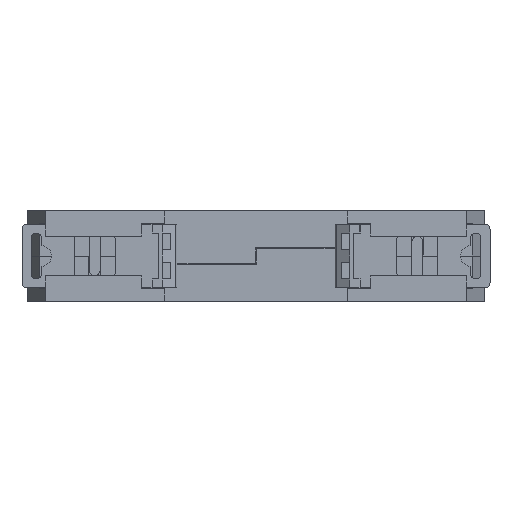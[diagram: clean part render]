
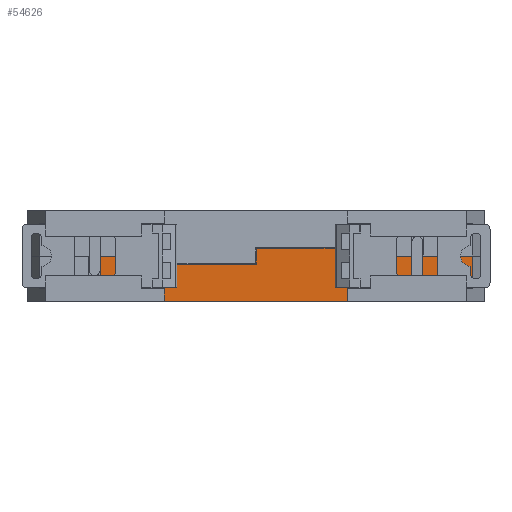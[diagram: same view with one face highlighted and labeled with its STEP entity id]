
A CAD part, front view. The second image highlights one B-rep face of the part: STEP entity #54626.
In plain terms, the highlighted planar face has unit normal (0, -1, 0).
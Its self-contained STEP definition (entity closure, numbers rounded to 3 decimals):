
#153 = CARTESIAN_POINT ( 'NONE',  ( 0.05, 0., 10.4 ) ) ;
#404 = EDGE_LOOP ( 'NONE', ( #39533, #10473, #4289, #28797, #7849, #20193, #27583, #27879, #53048, #15402, #41376, #2818, #42409, #16043 ) ) ;
#1025 = VERTEX_POINT ( 'NONE', #53920 ) ;
#1047 = DIRECTION ( 'NONE',  ( -1., 0., 0. ) ) ;
#1276 = VERTEX_POINT ( 'NONE', #153 ) ;
#1555 = CARTESIAN_POINT ( 'NONE',  ( 42.4, 0., 8.9 ) ) ;
#1650 = EDGE_CURVE ( 'NONE', #25770, #32110, #54194, .T. ) ;
#1839 = EDGE_CURVE ( 'NONE', #5788, #46252, #36003, .T. ) ;
#2256 = CARTESIAN_POINT ( 'NONE',  ( -30.5, 0., 8.9 ) ) ;
#2818 = ORIENTED_EDGE ( 'NONE', *, *, #27532, .T. ) ;
#3936 = LINE ( 'NONE', #18486, #21828 ) ;
#3993 = AXIS2_PLACEMENT_3D ( 'NONE', #5317, #35244, #1047 ) ;
#4101 = VECTOR ( 'NONE', #18441, 1000. ) ;
#4255 = DIRECTION ( 'NONE',  ( 0., 0., -1. ) ) ;
#4289 = ORIENTED_EDGE ( 'NONE', *, *, #31719, .T. ) ;
#5317 = CARTESIAN_POINT ( 'NONE',  ( 42.4, 0., 8.9 ) ) ;
#5788 = VERTEX_POINT ( 'NONE', #26750 ) ;
#7849 = ORIENTED_EDGE ( 'NONE', *, *, #10587, .T. ) ;
#8528 = CARTESIAN_POINT ( 'NONE',  ( 0.05, 0., 10.4 ) ) ;
#9726 = CARTESIAN_POINT ( 'NONE',  ( -18., 0., 0. ) ) ;
#9890 = EDGE_CURVE ( 'NONE', #28914, #35040, #37804, .T. ) ;
#10042 = VECTOR ( 'NONE', #41183, 1000. ) ;
#10197 = LINE ( 'NONE', #8528, #28616 ) ;
#10285 = DIRECTION ( 'NONE',  ( 0., 0., -1. ) ) ;
#10473 = ORIENTED_EDGE ( 'NONE', *, *, #42954, .F. ) ;
#10587 = EDGE_CURVE ( 'NONE', #42765, #50553, #47933, .T. ) ;
#12171 = CARTESIAN_POINT ( 'NONE',  ( -18., 0., 2.5 ) ) ;
#12572 = EDGE_CURVE ( 'NONE', #1276, #5788, #27353, .T. ) ;
#15402 = ORIENTED_EDGE ( 'NONE', *, *, #1839, .F. ) ;
#16043 = ORIENTED_EDGE ( 'NONE', *, *, #21227, .T. ) ;
#16507 = FACE_OUTER_BOUND ( 'NONE', #404, .T. ) ;
#17479 = VECTOR ( 'NONE', #21603, 1000. ) ;
#18441 = DIRECTION ( 'NONE',  ( 1., 0., 0. ) ) ;
#18486 = CARTESIAN_POINT ( 'NONE',  ( 18., 0., 2.5 ) ) ;
#19022 = DIRECTION ( 'NONE',  ( 0., 0., 1. ) ) ;
#19101 = VECTOR ( 'NONE', #48368, 1000. ) ;
#20193 = ORIENTED_EDGE ( 'NONE', *, *, #36826, .F. ) ;
#20598 = LINE ( 'NONE', #43704, #4101 ) ;
#21227 = EDGE_CURVE ( 'NONE', #28914, #1025, #24300, .T. ) ;
#21235 = EDGE_CURVE ( 'NONE', #43738, #1025, #24204, .T. ) ;
#21603 = DIRECTION ( 'NONE',  ( 0., 0., -1. ) ) ;
#21828 = VECTOR ( 'NONE', #37783, 1000. ) ;
#23194 = VECTOR ( 'NONE', #29200, 1000. ) ;
#23288 = LINE ( 'NONE', #39211, #23194 ) ;
#23359 = VERTEX_POINT ( 'NONE', #12171 ) ;
#23616 = CARTESIAN_POINT ( 'NONE',  ( 17.9, 0., 10.4 ) ) ;
#24109 = CARTESIAN_POINT ( 'NONE',  ( 18., 0., 2.5 ) ) ;
#24204 = LINE ( 'NONE', #1555, #41525 ) ;
#24300 = LINE ( 'NONE', #43931, #42539 ) ;
#25770 = VERTEX_POINT ( 'NONE', #34949 ) ;
#26750 = CARTESIAN_POINT ( 'NONE',  ( 17.9, 0., 10.4 ) ) ;
#27353 = LINE ( 'NONE', #23616, #44420 ) ;
#27532 = EDGE_CURVE ( 'NONE', #1276, #35040, #10197, .T. ) ;
#27583 = ORIENTED_EDGE ( 'NONE', *, *, #29266, .T. ) ;
#27879 = ORIENTED_EDGE ( 'NONE', *, *, #1650, .F. ) ;
#28196 = LINE ( 'NONE', #41554, #10042 ) ;
#28616 = VECTOR ( 'NONE', #4255, 1000. ) ;
#28797 = ORIENTED_EDGE ( 'NONE', *, *, #36286, .T. ) ;
#28914 = VERTEX_POINT ( 'NONE', #32507 ) ;
#29200 = DIRECTION ( 'NONE',  ( 1., 0., 0. ) ) ;
#29266 = EDGE_CURVE ( 'NONE', #34186, #32110, #20598, .T. ) ;
#29434 = VECTOR ( 'NONE', #54307, 1000. ) ;
#30824 = DIRECTION ( 'NONE',  ( 1., 0., 0. ) ) ;
#31167 = LINE ( 'NONE', #32916, #32352 ) ;
#31719 = EDGE_CURVE ( 'NONE', #42310, #23359, #23288, .T. ) ;
#32110 = VERTEX_POINT ( 'NONE', #42169 ) ;
#32352 = VECTOR ( 'NONE', #41085, 1000. ) ;
#32386 = CARTESIAN_POINT ( 'NONE',  ( 17.9, 0., 10.4 ) ) ;
#32507 = CARTESIAN_POINT ( 'NONE',  ( -18., 0., 7.3 ) ) ;
#32916 = CARTESIAN_POINT ( 'NONE',  ( -30.5, 0., -0.246 ) ) ;
#34186 = VERTEX_POINT ( 'NONE', #24109 ) ;
#34949 = CARTESIAN_POINT ( 'NONE',  ( 42.4, 0., 8.9 ) ) ;
#35022 = EDGE_CURVE ( 'NONE', #46252, #25770, #28196, .T. ) ;
#35040 = VERTEX_POINT ( 'NONE', #54435 ) ;
#35244 = DIRECTION ( 'NONE',  ( 0., 1., 0. ) ) ;
#35467 = CARTESIAN_POINT ( 'NONE',  ( -18., 0., 2.5 ) ) ;
#35810 = VECTOR ( 'NONE', #10285, 1000. ) ;
#35842 = CARTESIAN_POINT ( 'NONE',  ( -30.5, 0., 2.5 ) ) ;
#36003 = LINE ( 'NONE', #32386, #35810 ) ;
#36286 = EDGE_CURVE ( 'NONE', #23359, #42765, #54378, .T. ) ;
#36826 = EDGE_CURVE ( 'NONE', #34186, #50553, #3936, .T. ) ;
#37161 = CARTESIAN_POINT ( 'NONE',  ( 42.4, 0., 0. ) ) ;
#37783 = DIRECTION ( 'NONE',  ( 0., 0., -1. ) ) ;
#37804 = LINE ( 'NONE', #43618, #54526 ) ;
#39072 = CARTESIAN_POINT ( 'NONE',  ( 42.4, 0., 8.9 ) ) ;
#39211 = CARTESIAN_POINT ( 'NONE',  ( -42.4, 0., 2.5 ) ) ;
#39533 = ORIENTED_EDGE ( 'NONE', *, *, #21235, .F. ) ;
#41085 = DIRECTION ( 'NONE',  ( 0., 0., 1. ) ) ;
#41183 = DIRECTION ( 'NONE',  ( 1., 0., 0. ) ) ;
#41376 = ORIENTED_EDGE ( 'NONE', *, *, #12572, .F. ) ;
#41525 = VECTOR ( 'NONE', #48301, 1000. ) ;
#41554 = CARTESIAN_POINT ( 'NONE',  ( 42.4, 0., 8.9 ) ) ;
#42169 = CARTESIAN_POINT ( 'NONE',  ( 42.4, 0., 2.5 ) ) ;
#42310 = VERTEX_POINT ( 'NONE', #35842 ) ;
#42409 = ORIENTED_EDGE ( 'NONE', *, *, #9890, .F. ) ;
#42539 = VECTOR ( 'NONE', #19022, 1000. ) ;
#42765 = VERTEX_POINT ( 'NONE', #9726 ) ;
#42954 = EDGE_CURVE ( 'NONE', #42310, #43738, #31167, .T. ) ;
#43618 = CARTESIAN_POINT ( 'NONE',  ( 0.05, 0., 7.3 ) ) ;
#43704 = CARTESIAN_POINT ( 'NONE',  ( 42.4, 0., 2.5 ) ) ;
#43738 = VERTEX_POINT ( 'NONE', #2256 ) ;
#43931 = CARTESIAN_POINT ( 'NONE',  ( -18., 0., 7.3 ) ) ;
#44420 = VECTOR ( 'NONE', #44959, 1000. ) ;
#44959 = DIRECTION ( 'NONE',  ( 1., 0., 0. ) ) ;
#46252 = VERTEX_POINT ( 'NONE', #54611 ) ;
#47933 = LINE ( 'NONE', #37161, #29434 ) ;
#48301 = DIRECTION ( 'NONE',  ( 1., 0., 0. ) ) ;
#48368 = DIRECTION ( 'NONE',  ( 0., 0., -1. ) ) ;
#49421 = CARTESIAN_POINT ( 'NONE',  ( 18., 0., 0. ) ) ;
#50553 = VERTEX_POINT ( 'NONE', #49421 ) ;
#52391 = PLANE ( 'NONE',  #3993 ) ;
#53048 = ORIENTED_EDGE ( 'NONE', *, *, #35022, .F. ) ;
#53920 = CARTESIAN_POINT ( 'NONE',  ( -18., 0., 8.9 ) ) ;
#54194 = LINE ( 'NONE', #39072, #17479 ) ;
#54307 = DIRECTION ( 'NONE',  ( 1., 0., 0. ) ) ;
#54378 = LINE ( 'NONE', #35467, #19101 ) ;
#54435 = CARTESIAN_POINT ( 'NONE',  ( 0.05, 0., 7.3 ) ) ;
#54526 = VECTOR ( 'NONE', #30824, 1000. ) ;
#54611 = CARTESIAN_POINT ( 'NONE',  ( 17.9, 0., 8.9 ) ) ;
#54626 = ADVANCED_FACE ( 'NONE', ( #16507 ), #52391, .F. ) ;
